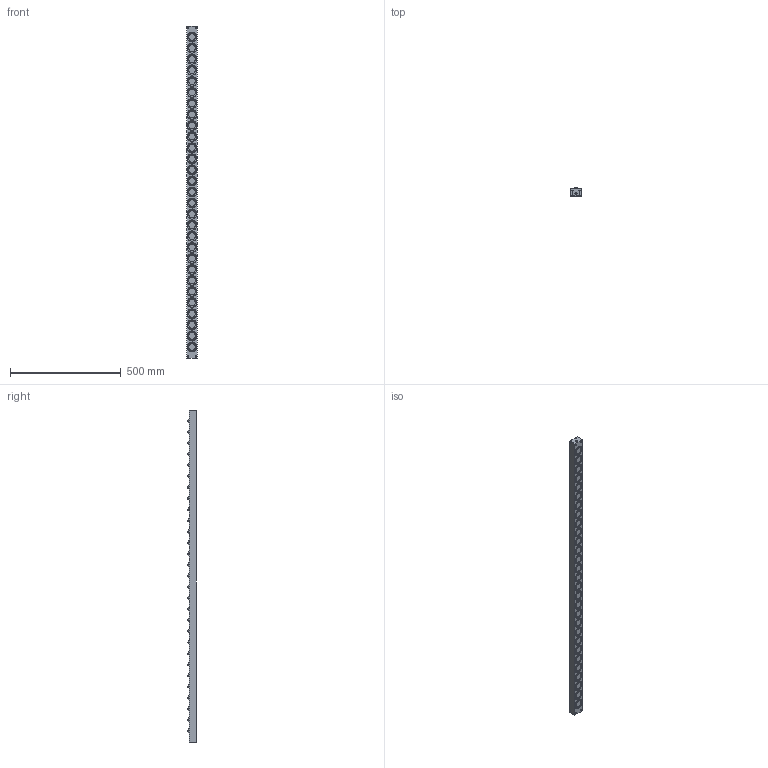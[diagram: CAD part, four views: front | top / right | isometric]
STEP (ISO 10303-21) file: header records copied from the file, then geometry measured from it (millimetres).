
FILE_DESCRIPTION (( 'STEP AP203' ), '1' );
FILE_NAME ('PVL55SL-29.STEP', '2016-02-18T07:32:07', ( '' ), ( '' ), 'SwSTEP 2.0', 'SolidWorks 2013', '' );
FILE_SCHEMA (( 'CONFIG_CONTROL_DESIGN' ));
Length unit declared in the file: millimetre
Products named in the file (1): PVL55SL-29
Bounding box: 49 x 38 x 1500 mm (x, y, z)
Volume: 2322362.9 mm3; surface area: 325317 mm2
Topology: 1 solids, 1 shells, 1164 faces, 2889 edges, 1934 vertices
Faces by surface type: cylinder 772, plane 330, sphere 58, cone 4
Entity records: 35746 total; most frequent: DIRECTION 7055, CARTESIAN_POINT 5986, ORIENTED_EDGE 5774, AXIS2_PLACEMENT_3D 3003, EDGE_CURVE 2887, VERTEX_POINT 1934, CIRCLE 1838, EDGE_LOOP 1381
